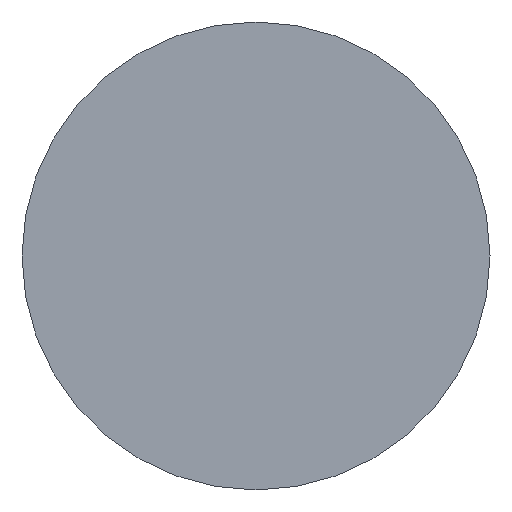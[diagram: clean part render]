
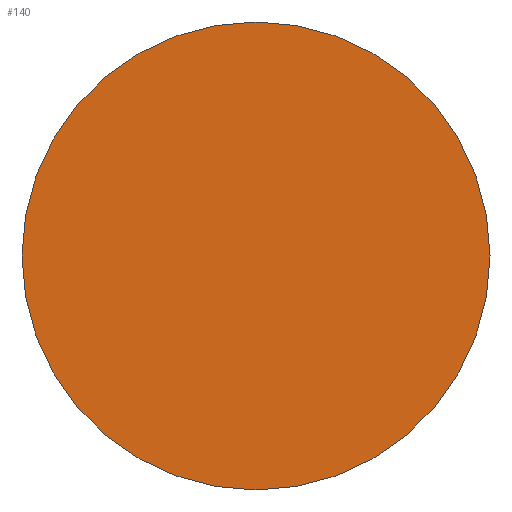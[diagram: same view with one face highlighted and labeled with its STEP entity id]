
A CAD part, front view. The second image highlights one B-rep face of the part: STEP entity #140.
In plain terms, the highlighted planar face has unit normal (0, -1, 0).
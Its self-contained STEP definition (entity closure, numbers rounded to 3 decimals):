
#31 = CYLINDRICAL_SURFACE('',#32,9.3);
#32 = AXIS2_PLACEMENT_3D('',#33,#34,#35);
#33 = CARTESIAN_POINT('',(141.586,-26.5,137.089));
#34 = DIRECTION('',(0.,1.,0.));
#35 = DIRECTION('',(0.,-0.,1.));
#56 = VERTEX_POINT('',#57);
#57 = CARTESIAN_POINT('',(141.586,-26.5,146.389));
#78 = EDGE_CURVE('',#56,#56,#79,.T.);
#79 = SURFACE_CURVE('',#80,(#85,#92),.PCURVE_S1.);
#80 = CIRCLE('',#81,9.3);
#81 = AXIS2_PLACEMENT_3D('',#82,#83,#84);
#82 = CARTESIAN_POINT('',(141.586,-26.5,137.089));
#83 = DIRECTION('',(0.,1.,0.));
#84 = DIRECTION('',(0.,-0.,1.));
#85 = PCURVE('',#31,#86);
#86 = DEFINITIONAL_REPRESENTATION('',(#87),#91);
#87 = LINE('',#88,#89);
#88 = CARTESIAN_POINT('',(0.,0.));
#89 = VECTOR('',#90,1.);
#90 = DIRECTION('',(1.,0.));
#91 = ( GEOMETRIC_REPRESENTATION_CONTEXT(2) 
PARAMETRIC_REPRESENTATION_CONTEXT() REPRESENTATION_CONTEXT('2D SPACE',''
  ) );
#92 = PCURVE('',#93,#98);
#93 = PLANE('',#94);
#94 = AXIS2_PLACEMENT_3D('',#95,#96,#97);
#95 = CARTESIAN_POINT('',(141.586,-26.5,137.089));
#96 = DIRECTION('',(0.,1.,0.));
#97 = DIRECTION('',(0.,-0.,1.));
#98 = DEFINITIONAL_REPRESENTATION('',(#99),#103);
#99 = CIRCLE('',#100,9.3);
#100 = AXIS2_PLACEMENT_2D('',#101,#102);
#101 = CARTESIAN_POINT('',(0.,0.));
#102 = DIRECTION('',(1.,0.));
#103 = ( GEOMETRIC_REPRESENTATION_CONTEXT(2) 
PARAMETRIC_REPRESENTATION_CONTEXT() REPRESENTATION_CONTEXT('2D SPACE',''
  ) );
#140 = ADVANCED_FACE('',(#141),#93,.F.);
#141 = FACE_BOUND('',#142,.T.);
#142 = EDGE_LOOP('',(#143));
#143 = ORIENTED_EDGE('',*,*,#78,.F.);
